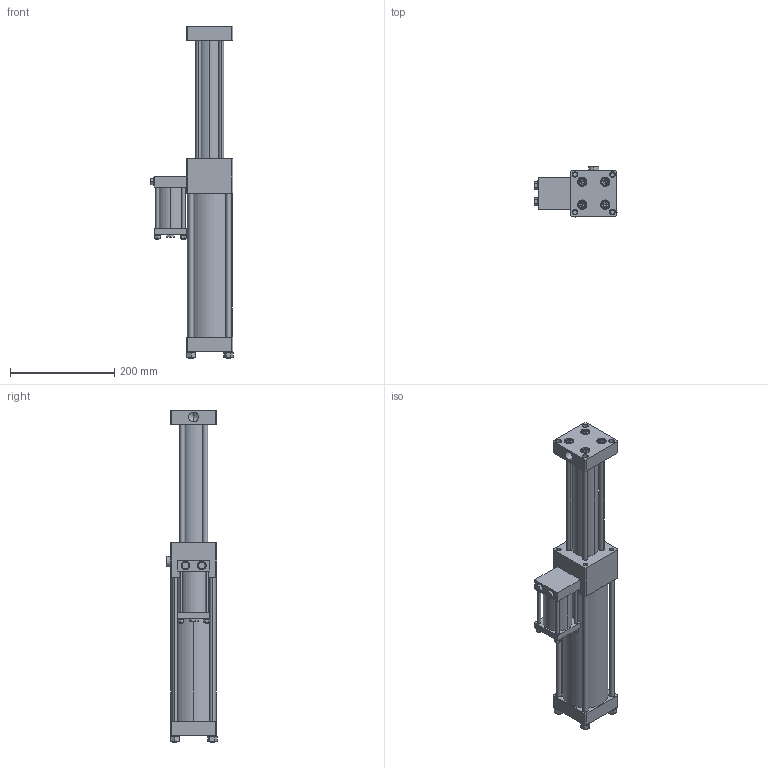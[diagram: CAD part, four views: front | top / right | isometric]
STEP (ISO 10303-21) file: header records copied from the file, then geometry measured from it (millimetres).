
FILE_DESCRIPTION (( 'STEP AP203' ), '1' );
FILE_NAME ('1320 040 100.STEP', '2016-02-22T08:06:33', ( 'Admin' ), ( '' ), 'SwSTEP 2.0', 'SolidWorks 2015', '' );
FILE_SCHEMA (( 'CONFIG_CONTROL_DESIGN' ));
Length unit declared in the file: millimetre
Products named in the file (10): hexagon nut_is1_IS 1363-2 - M10-N; hhb(grade a)_is_IS 1364 HHB(Grade A) - M8 x 40 x 22-N_1; plain washer (type a)_is_IS 2016 A- 9_1; spring lock washer 6735_is1_IS 6735- 10_1; socket head cap screw_is_IS 2269 - M10 x 16-N_1; 1320_1320 040 100; 1320 040 100; spring lock washer 6735_is_IS 6735- 6; hexagon nut_is1_IS 1363-2 - M6-N; spring lock washer 6735_is_IS 6735- 10
Assembly tree (29 placements, depth 2):
  1320 040 100
    1320_1320 040 100
    spring lock washer 6735_is_IS 6735- 6  x4
    hexagon nut_is1_IS 1363-2 - M6-N  x4
    spring lock washer 6735_is_IS 6735- 10  x4
    hexagon nut_is1_IS 1363-2 - M10-N  x4
    hhb(grade a)_is_IS 1364 HHB(Grade A) - M8 x 40 x 22-N_1  x2
    plain washer (type a)_is_IS 2016 A- 9_1  x2
    spring lock washer 6735_is1_IS 6735- 10_1  x4
    socket head cap screw_is_IS 2269 - M10 x 16-N_1  x4
Bounding box: 158.64 x 96.74 x 638 mm (x, y, z)
Volume: 3587328.5 mm3; surface area: 356013.6 mm2
Topology: 34 solids, 34 shells, 744 faces, 1708 edges, 1057 vertices
Faces by surface type: plane 290, cylinder 220, cone 182, bspline 44, torus 8
Entity records: 12411 total; most frequent: CARTESIAN_POINT 2407, DIRECTION 1848, ORIENTED_EDGE 1652, EDGE_CURVE 826, AXIS2_PLACEMENT_3D 736, VERTEX_POINT 525, EDGE_LOOP 447, VECTOR 376
